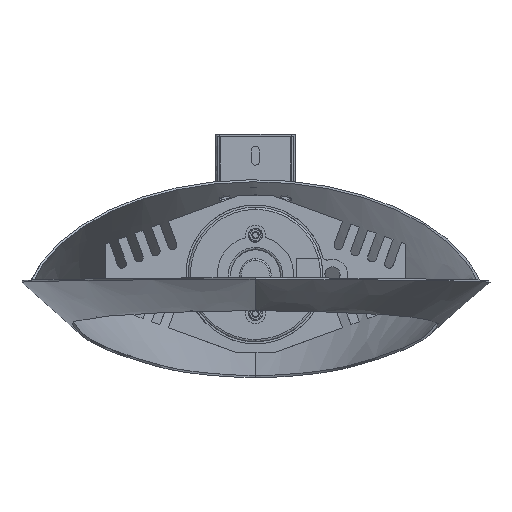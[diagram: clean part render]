
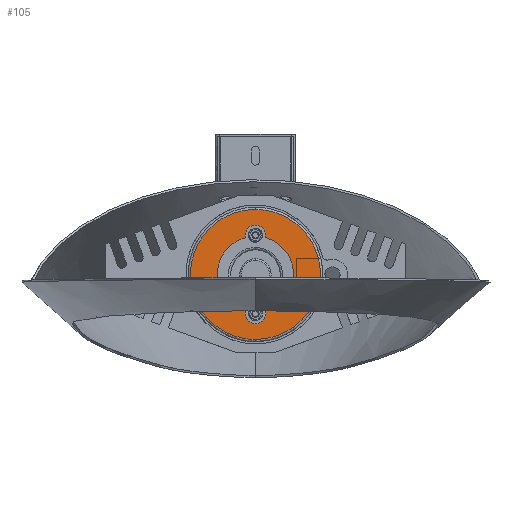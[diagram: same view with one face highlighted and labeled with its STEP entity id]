
A CAD part, top view. The second image highlights one B-rep face of the part: STEP entity #105.
In plain terms, the highlighted planar face has unit normal (0, 0, 1).
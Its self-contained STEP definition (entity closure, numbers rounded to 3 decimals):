
#60=FACE_BOUND('',#593,.T.);
#105=ADVANCED_FACE('',(#347,#60),#3781,.T.);
#347=FACE_OUTER_BOUND('',#592,.T.);
#592=EDGE_LOOP('',(#902,#903));
#593=EDGE_LOOP('',(#904,#905,#906,#907));
#902=ORIENTED_EDGE('',*,*,#2135,.T.);
#903=ORIENTED_EDGE('',*,*,#2184,.T.);
#904=ORIENTED_EDGE('',*,*,#2119,.T.);
#905=ORIENTED_EDGE('',*,*,#2123,.T.);
#906=ORIENTED_EDGE('',*,*,#2126,.T.);
#907=ORIENTED_EDGE('',*,*,#2129,.T.);
#2119=EDGE_CURVE('',#3374,#3375,#3089,.T.);
#2123=EDGE_CURVE('',#3375,#3376,#3093,.T.);
#2126=EDGE_CURVE('',#3376,#3377,#3096,.T.);
#2129=EDGE_CURVE('',#3377,#3374,#3099,.T.);
#2135=EDGE_CURVE('',#3379,#3413,#3104,.T.);
#2184=EDGE_CURVE('',#3413,#3379,#3136,.T.);
#3089=(
BOUNDED_CURVE()
B_SPLINE_CURVE(2,(#4841,#4842,#4843,#4844,#4845),.UNSPECIFIED.,.F.,.F.)
B_SPLINE_CURVE_WITH_KNOTS((3,2,3),(-141.859,-119.575,
-97.292),.UNSPECIFIED.)
CURVE()
GEOMETRIC_REPRESENTATION_ITEM()
RATIONAL_B_SPLINE_CURVE((1.,0.793,1.,0.793,1.))
REPRESENTATION_ITEM('')
);
#3093=(
BOUNDED_CURVE()
B_SPLINE_CURVE(2,(#4855,#4856,#4857,#4858,#4859,#4860,#4861,#4862,#4863),
 .UNSPECIFIED.,.F.,.F.)
B_SPLINE_CURVE_WITH_KNOTS((3,2,2,2,3),(-97.292,-93.217,
-89.142,-85.067,-80.991),.UNSPECIFIED.)
CURVE()
GEOMETRIC_REPRESENTATION_ITEM()
RATIONAL_B_SPLINE_CURVE((1.,0.899,1.,0.899,1.,0.899,
1.,0.899,1.))
REPRESENTATION_ITEM('')
);
#3096=(
BOUNDED_CURVE()
B_SPLINE_CURVE(2,(#4875,#4876,#4877,#4878,#4879),.UNSPECIFIED.,.F.,.F.)
B_SPLINE_CURVE_WITH_KNOTS((3,2,3),(-80.991,-58.708,-36.425),
 .UNSPECIFIED.)
CURVE()
GEOMETRIC_REPRESENTATION_ITEM()
RATIONAL_B_SPLINE_CURVE((1.,0.793,1.,0.793,1.))
REPRESENTATION_ITEM('')
);
#3099=(
BOUNDED_CURVE()
B_SPLINE_CURVE(2,(#4887,#4888,#4889,#4890,#4891,#4892,#4893,#4894,#4895),
 .UNSPECIFIED.,.F.,.F.)
B_SPLINE_CURVE_WITH_KNOTS((3,2,2,2,3),(-36.425,-32.35,
-28.274,-24.199,-20.124),.UNSPECIFIED.)
CURVE()
GEOMETRIC_REPRESENTATION_ITEM()
RATIONAL_B_SPLINE_CURVE((1.,0.899,1.,0.899,1.,0.899,
1.,0.899,1.))
REPRESENTATION_ITEM('')
);
#3104=(
BOUNDED_CURVE()
B_SPLINE_CURVE(3,(#4920,#4921,#4922,#4923,#4924,#4925,#4926,#4927,#4928,
#4929,#4930,#4931,#4932,#4933,#4934,#4935,#4936,#4937,#4938,#4939,#4940),
 .UNSPECIFIED.,.F.,.F.)
B_SPLINE_CURVE_WITH_KNOTS((4,1,1,1,1,1,1,1,3,1,1,1,1,1,1,1,4),(0.,5.466,
10.932,16.854,22.776,28.699,34.621,
40.087,45.553,51.019,56.485,62.407,
68.329,74.252,80.174,85.64,91.106),
 .UNSPECIFIED.)
CURVE()
GEOMETRIC_REPRESENTATION_ITEM()
RATIONAL_B_SPLINE_CURVE((1.,1.,1.,1.,1.,1.,
1.,1.,1.,1.,1.,1.,1.,1.,1.,1.,1.,1.,1.,1.,1.))
REPRESENTATION_ITEM('')
);
#3136=(
BOUNDED_CURVE()
B_SPLINE_CURVE(3,(#5125,#5126,#5127,#5128,#5129,#5130,#5131,#5132,#5133,
#5134,#5135,#5136,#5137,#5138,#5139,#5140,#5141,#5142,#5143,#5144,#5145),
 .UNSPECIFIED.,.F.,.F.)
B_SPLINE_CURVE_WITH_KNOTS((4,1,1,1,1,1,1,1,3,1,1,1,1,1,1,1,4),(91.106,
96.571,102.037,107.96,113.882,119.804,
125.727,131.193,136.658,142.124,147.59,
153.512,159.435,165.357,171.279,176.745,
182.211),.UNSPECIFIED.)
CURVE()
GEOMETRIC_REPRESENTATION_ITEM()
RATIONAL_B_SPLINE_CURVE((1.,1.,1.,1.,1.,1.,1.,
1.,1.,1.,1.,1.,1.,1.,1.,1.,
1.,1.,1.,1.,1.))
REPRESENTATION_ITEM('')
);
#3374=VERTEX_POINT('',#4780);
#3375=VERTEX_POINT('',#4781);
#3376=VERTEX_POINT('',#4782);
#3377=VERTEX_POINT('',#4783);
#3379=VERTEX_POINT('',#4785);
#3413=VERTEX_POINT('',#4819);
#3781=PLANE('',#4080);
#4080=AXIS2_PLACEMENT_3D('',#4700,#4202,$);
#4202=DIRECTION('',(0.,0.,1.));
#4700=CARTESIAN_POINT('',(37.5,-100.773,89.01));
#4780=CARTESIAN_POINT('',(4.371,-46.844,89.01));
#4781=CARTESIAN_POINT('',(4.371,-79.702,89.01));
#4782=CARTESIAN_POINT('',(-4.371,-79.702,89.01));
#4783=CARTESIAN_POINT('',(-4.371,-46.844,89.01));
#4785=CARTESIAN_POINT('',(0.,-34.273,89.01));
#4819=CARTESIAN_POINT('',(0.,-92.273,89.01));
#4841=CARTESIAN_POINT('',(4.371,-46.844,89.01));
#4842=CARTESIAN_POINT('',(17.,-50.204,89.01));
#4843=CARTESIAN_POINT('',(17.,-63.273,89.01));
#4844=CARTESIAN_POINT('',(17.,-76.342,89.01));
#4845=CARTESIAN_POINT('',(4.371,-79.702,89.01));
#4855=CARTESIAN_POINT('',(4.371,-79.702,89.01));
#4856=CARTESIAN_POINT('',(4.892,-81.828,89.01));
#4857=CARTESIAN_POINT('',(3.541,-83.55,89.01));
#4858=CARTESIAN_POINT('',(2.189,-85.273,89.01));
#4859=CARTESIAN_POINT('',(0.,-85.273,89.01));
#4860=CARTESIAN_POINT('',(-2.189,-85.273,89.01));
#4861=CARTESIAN_POINT('',(-3.541,-83.55,89.01));
#4862=CARTESIAN_POINT('',(-4.892,-81.828,89.01));
#4863=CARTESIAN_POINT('',(-4.371,-79.702,89.01));
#4875=CARTESIAN_POINT('',(-4.371,-79.702,89.01));
#4876=CARTESIAN_POINT('',(-17.,-76.342,89.01));
#4877=CARTESIAN_POINT('',(-17.,-63.273,89.01));
#4878=CARTESIAN_POINT('',(-17.,-50.204,89.01));
#4879=CARTESIAN_POINT('',(-4.371,-46.844,89.01));
#4887=CARTESIAN_POINT('',(-4.371,-46.844,89.01));
#4888=CARTESIAN_POINT('',(-4.892,-44.718,89.01));
#4889=CARTESIAN_POINT('',(-3.541,-42.996,89.01));
#4890=CARTESIAN_POINT('',(-2.189,-41.273,89.01));
#4891=CARTESIAN_POINT('',(0.,-41.273,89.01));
#4892=CARTESIAN_POINT('',(2.189,-41.273,89.01));
#4893=CARTESIAN_POINT('',(3.541,-42.996,89.01));
#4894=CARTESIAN_POINT('',(4.892,-44.718,89.01));
#4895=CARTESIAN_POINT('',(4.371,-46.844,89.01));
#4920=CARTESIAN_POINT('',(0.,-34.273,89.01));
#4921=CARTESIAN_POINT('',(-1.822,-34.273,89.01));
#4922=CARTESIAN_POINT('',(-5.466,-34.617,89.01));
#4923=CARTESIAN_POINT('',(-10.885,-36.192,89.01));
#4924=CARTESIAN_POINT('',(-16.032,-38.865,89.01));
#4925=CARTESIAN_POINT('',(-20.649,-42.624,89.01));
#4926=CARTESIAN_POINT('',(-24.408,-47.241,89.01));
#4927=CARTESIAN_POINT('',(-27.081,-52.388,89.01));
#4928=CARTESIAN_POINT('',(-28.656,-57.807,89.01));
#4929=CARTESIAN_POINT('',(-29.,-61.451,89.01));
#4930=CARTESIAN_POINT('',(-29.,-63.273,89.01));
#4931=CARTESIAN_POINT('',(-29.,-65.095,89.01));
#4932=CARTESIAN_POINT('',(-28.656,-68.739,89.01));
#4933=CARTESIAN_POINT('',(-27.081,-74.158,89.01));
#4934=CARTESIAN_POINT('',(-24.408,-79.305,89.01));
#4935=CARTESIAN_POINT('',(-20.649,-83.922,89.01));
#4936=CARTESIAN_POINT('',(-16.032,-87.681,89.01));
#4937=CARTESIAN_POINT('',(-10.885,-90.354,89.01));
#4938=CARTESIAN_POINT('',(-5.466,-91.929,89.01));
#4939=CARTESIAN_POINT('',(-1.822,-92.273,89.01));
#4940=CARTESIAN_POINT('',(0.,-92.273,89.01));
#5125=CARTESIAN_POINT('',(0.,-92.273,89.01));
#5126=CARTESIAN_POINT('',(1.822,-92.273,89.01));
#5127=CARTESIAN_POINT('',(5.466,-91.929,89.01));
#5128=CARTESIAN_POINT('',(10.885,-90.354,89.01));
#5129=CARTESIAN_POINT('',(16.032,-87.681,89.01));
#5130=CARTESIAN_POINT('',(20.649,-83.922,89.01));
#5131=CARTESIAN_POINT('',(24.408,-79.305,89.01));
#5132=CARTESIAN_POINT('',(27.081,-74.158,89.01));
#5133=CARTESIAN_POINT('',(28.656,-68.739,89.01));
#5134=CARTESIAN_POINT('',(29.,-65.095,89.01));
#5135=CARTESIAN_POINT('',(29.,-63.273,89.01));
#5136=CARTESIAN_POINT('',(29.,-61.451,89.01));
#5137=CARTESIAN_POINT('',(28.656,-57.807,89.01));
#5138=CARTESIAN_POINT('',(27.081,-52.388,89.01));
#5139=CARTESIAN_POINT('',(24.408,-47.241,89.01));
#5140=CARTESIAN_POINT('',(20.649,-42.624,89.01));
#5141=CARTESIAN_POINT('',(16.032,-38.865,89.01));
#5142=CARTESIAN_POINT('',(10.885,-36.191,89.01));
#5143=CARTESIAN_POINT('',(5.466,-34.617,89.01));
#5144=CARTESIAN_POINT('',(1.822,-34.273,89.01));
#5145=CARTESIAN_POINT('',(0.,-34.273,89.01));
